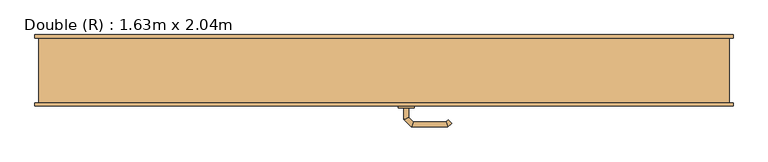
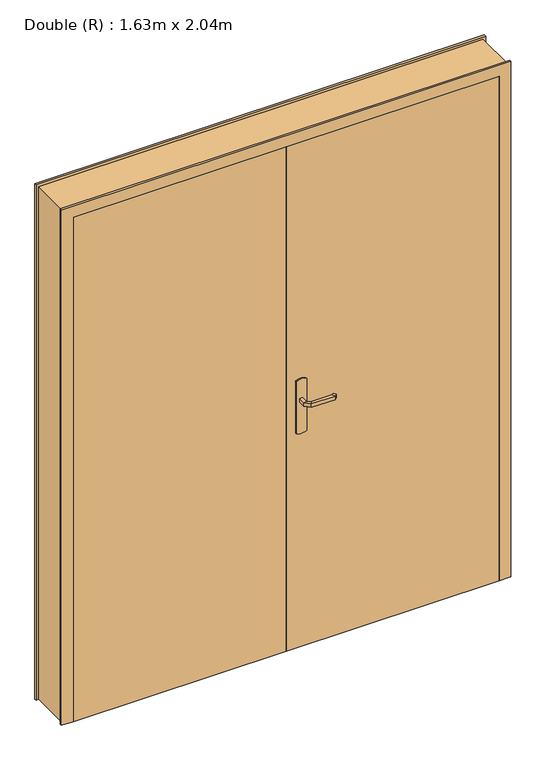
"""IFC4 building model written with IfcOpenShell, lengths in millimetres: door geometry, Double (R) : 1.63m x 2.04m."""

from ifc_helpers import new_model, si_unit, point, frame, frame_2d, origin, origin_with_axes, place, context, project, spatial, polyline, circle_curve, ellipse_curve, trimmed, segment, composite_curve, outline, extrude, faceted_brep, source, transform, mapped, element, save
from ifc_brep_helpers import plane_surface, cylinder_surface, advanced_brep


def double_r_1_63m_x_2_04m_953f21a6(model_context):
    return source(origin(), model_context, "Body", "SolidModel", [
        advanced_brep(
        [(61.0, -43.0, 993.0), (61.0, -43.0, 1007.0), (49.0, -43.0, 1007.0), (49.0, -43.0, 993.0), (61.0, -20.5147955, 993.0), (61.0, -20.5147955, 1007.0), (49.0, -15.5442327, 1007.0), (49.0, -15.5442327, 993.0), (72.4852814, -9.0295141, 993.0), (72.4852814, -9.0295141, 1007.0), (67.5147186, 2.9704859, 1007.0), (67.5147186, 2.9704859, 993.0), (152.5605023, -9.0295141, 993.0), (152.5605023, -9.0295141, 1007.0), (157.531065, 2.9704859, 1007.0), (157.531065, 2.9704859, 993.0), (157.8742108, -14.3432226, 993.0), (166.3594922, -5.8579412, 993.0), (166.3594922, -5.8579412, 1007.0), (157.8742108, -14.3432226, 1007.0)],
        [
            (0, 1),
            (1, 2, circle_curve(frame((55.0, -43.0, 986.9542278), z_axis=(0.0, -1.0, 0.0), x_axis=(-1.0, 0.0, 0.0)), 20.9244589)),
            (2, 3),
            (3, 0, circle_curve(frame((55.0, -43.0, 1013.0457722), z_axis=(0.0, -1.0, 0.0), x_axis=(-1.0, 0.0, 0.0)), 20.9244589)),
            (0, 4),
            (4, 5),
            (5, 1),
            (5, 6, ellipse_curve(frame((55.0, -18.0295141, 986.9542278), z_axis=(-0.38268343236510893, -0.9238795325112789, 0.0), x_axis=(0.9238795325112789, -0.3826834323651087, 0.0)), 22.6484711, 20.9244589)),
            (6, 2),
            (6, 7),
            (7, 3),
            (7, 4, ellipse_curve(frame((55.0, -18.0295141, 1013.0457722), z_axis=(-0.38268343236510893, -0.9238795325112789, 0.0), x_axis=(0.9238795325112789, -0.3826834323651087, 0.0)), 22.6484711, 20.9244589)),
            (4, 8),
            (8, 9),
            (9, 5),
            (9, 10, ellipse_curve(frame((70.0, -3.0295141, 986.9542278), z_axis=(-0.9238795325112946, -0.38268343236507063, 0.0), x_axis=(0.3826834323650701, -0.9238795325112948, 0.0)), 22.6484711, 20.9244589)),
            (10, 6),
            (10, 11),
            (11, 7),
            (11, 8, ellipse_curve(frame((70.0, -3.0295141, 1013.0457722), z_axis=(-0.9238795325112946, -0.38268343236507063, 0.0), x_axis=(0.3826834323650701, -0.9238795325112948, 0.0)), 22.6484711, 20.9244589)),
            (8, 12),
            (12, 13),
            (13, 9),
            (13, 14, ellipse_curve(frame((155.0457837, -3.0295141, 986.9542278), z_axis=(-0.9238795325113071, 0.38268343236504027, 0.0), x_axis=(-0.38268343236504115, -0.9238795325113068, 0.0)), 22.6484711, 20.9244589)),
            (14, 10),
            (14, 15),
            (15, 11),
            (15, 12, ellipse_curve(frame((155.0457837, -3.0295141, 1013.0457722), z_axis=(-0.9238795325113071, 0.38268343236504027, 0.0), x_axis=(-0.38268343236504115, -0.9238795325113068, 0.0)), 22.6484711, 20.9244589)),
            (16, 17, circle_curve(frame((162.1168515, -10.1005819, 1013.0457722), z_axis=(0.7071067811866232, -0.7071067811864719, 0.0), x_axis=(0.7071067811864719, 0.7071067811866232, 0.0)), 20.9244589)),
            (17, 18),
            (18, 19, circle_curve(frame((162.1168515, -10.1005819, 986.9542278), z_axis=(0.7071067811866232, -0.7071067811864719, 0.0), x_axis=(0.7071067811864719, 0.7071067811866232, 0.0)), 20.9244589)),
            (19, 16),
            (12, 16),
            (19, 13),
            (18, 14),
            (17, 15),
        ],
        [
            plane_surface(frame((45.7804555, -43.0, 1000.0), z_axis=(0.0, -1.0, 0.0), x_axis=(0.0, 0.0, 1.0))),
            plane_surface(frame((61.0, -43.0, 993.0), z_axis=(1.0, 0.0, 0.0), x_axis=(0.0, 1.0, 0.0))),
            cylinder_surface(frame((55.0, -43.0, 986.9542278), z_axis=(0.0, -1.0, 0.0), x_axis=(-1.0, 0.0, 0.0)), 20.9244589),
            plane_surface(frame((49.0, -43.0, 1007.0), z_axis=(-1.0, 0.0, 0.0), x_axis=(0.0, 1.0, 0.0))),
            cylinder_surface(frame((55.0, -43.0, 1013.0457722), z_axis=(0.0, -1.0, 0.0), x_axis=(-1.0, 0.0, 0.0)), 20.9244589),
            plane_surface(frame((61.0, -20.5147955, 993.0), z_axis=(0.707106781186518, -0.707106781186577, 0.0), x_axis=(0.707106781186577, 0.707106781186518, 0.0))),
            cylinder_surface(frame((55.0, -18.0295141, 986.9542278), z_axis=(-0.7071067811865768, -0.7071067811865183, 0.0), x_axis=(-0.7071067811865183, 0.7071067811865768, 0.0)), 20.9244589),
            plane_surface(frame((49.0, -15.5442327, 1007.0), z_axis=(-0.7071067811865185, 0.7071067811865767, 0.0), x_axis=(0.7071067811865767, 0.7071067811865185, 0.0))),
            cylinder_surface(frame((55.0, -18.0295141, 1013.0457722), z_axis=(-0.7071067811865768, -0.7071067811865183, 0.0), x_axis=(-0.7071067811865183, 0.7071067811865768, 0.0)), 20.9244589),
            plane_surface(frame((72.4852814, -9.0295141, 993.0), z_axis=(0.0, -1.0, 0.0), x_axis=(1.0, 0.0, 0.0))),
            cylinder_surface(frame((70.0, -3.0295141, 986.9542278), z_axis=(-1.0, 0.0, 0.0), x_axis=(0.0, 1.0, 0.0)), 20.9244589),
            plane_surface(frame((67.5147186, 2.9704859, 1007.0), z_axis=(0.0, 1.0, 0.0), x_axis=(1.0, 0.0, 0.0))),
            cylinder_surface(frame((70.0, -3.0295141, 1013.0457722), z_axis=(-1.0, 0.0, 0.0), x_axis=(0.0, 1.0, 0.0)), 20.9244589),
            plane_surface(frame((162.1168515, -10.1005819, 990.7804555), z_axis=(0.7071067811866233, -0.7071067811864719, 0.0), x_axis=(0.7071067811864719, 0.7071067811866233, 0.0))),
            plane_surface(frame((152.5605023, -9.0295141, 993.0), z_axis=(-0.707106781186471, -0.7071067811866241, 0.0), x_axis=(0.7071067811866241, -0.707106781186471, 0.0))),
            cylinder_surface(frame((155.0457837, -3.0295141, 986.9542278), z_axis=(-0.7071067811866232, 0.7071067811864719, 0.0), x_axis=(0.7071067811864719, 0.7071067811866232, 0.0)), 20.9244589),
            plane_surface(frame((157.531065, 2.9704859, 1007.0), z_axis=(0.7071067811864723, 0.7071067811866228, 0.0), x_axis=(0.7071067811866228, -0.7071067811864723, 0.0))),
            cylinder_surface(frame((155.0457837, -3.0295141, 1013.0457722), z_axis=(-0.7071067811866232, 0.7071067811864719, 0.0), x_axis=(0.7071067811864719, 0.7071067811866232, 0.0)), 20.9244589),
        ],
        [
            (0, [[1, 2, 3, 4]]),
            (1, [[-1, 5, 6, 7]]),
            (2, [[-2, -7, 8, 9]]),
            (3, [[-3, -9, 10, 11]]),
            (4, [[-4, -11, 12, -5]]),
            (5, [[-6, 13, 14, 15]]),
            (6, [[-8, -15, 16, 17]]),
            (7, [[-10, -17, 18, 19]]),
            (8, [[-12, -19, 20, -13]]),
            (9, [[-14, 21, 22, 23]]),
            (10, [[-16, -23, 24, 25]]),
            (11, [[-18, -25, 26, 27]]),
            (12, [[-20, -27, 28, -21]]),
            (13, [[29, 30, 31, 32]]),
            (14, [[-22, 33, -32, 34]]),
            (15, [[-24, -34, -31, 35]]),
            (16, [[-26, -35, -30, 36]]),
            (17, [[-28, -36, -29, -33]]),
        ],
    ),
        advanced_brep(
        [(49.0, -93.0, 1007.0), (61.0, -93.0, 1007.0), (61.0, -93.0, 993.0), (49.0, -93.0, 993.0), (49.0, -120.6509507, 1007.0), (61.0, -115.680388, 1007.0), (61.0, -115.680388, 993.0), (49.0, -120.6509507, 993.0), (67.37721, -139.0281607, 1007.0), (72.3477727, -127.0281607, 1007.0), (72.3477727, -127.0281607, 993.0), (67.37721, -139.0281607, 993.0), (157.503922, -139.0281607, 1007.0), (152.5333592, -127.0281607, 1007.0), (152.5333592, -127.0281607, 993.0), (157.503922, -139.0281607, 993.0), (166.3323491, -130.1997336, 1007.0), (166.3323491, -130.1997336, 993.0), (157.8470677, -121.7144522, 993.0), (157.8470677, -121.7144522, 1007.0)],
        [
            (0, 1, circle_curve(frame((55.0, -93.0, 986.9542278), z_axis=(0.0, 1.0, 0.0), x_axis=(1.0, 0.0, 0.0)), 20.9244589)),
            (1, 2),
            (2, 3, circle_curve(frame((55.0, -93.0, 1013.0457722), z_axis=(0.0, 1.0, 0.0), x_axis=(1.0, 0.0, 0.0)), 20.9244589)),
            (3, 0),
            (0, 4),
            (4, 5, ellipse_curve(frame((55.0, -118.1656693, 986.9542278), z_axis=(-0.3826834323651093, 0.9238795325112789, 0.0), x_axis=(0.9238795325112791, 0.38268343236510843, 0.0)), 22.6484711, 20.9244589)),
            (5, 1),
            (5, 6),
            (6, 2),
            (6, 7, ellipse_curve(frame((55.0, -118.1656693, 1013.0457722), z_axis=(-0.3826834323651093, 0.9238795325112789, 0.0), x_axis=(0.9238795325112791, 0.38268343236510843, 0.0)), 22.6484711, 20.9244589)),
            (7, 3),
            (7, 4),
            (4, 8),
            (8, 9, ellipse_curve(frame((69.8624914, -133.0281607, 986.9542278), z_axis=(-0.9238795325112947, 0.38268343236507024, 0.0), x_axis=(0.3826834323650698, 0.9238795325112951, 0.0)), 22.6484711, 20.9244589)),
            (9, 5),
            (9, 10),
            (10, 6),
            (10, 11, ellipse_curve(frame((69.8624914, -133.0281607, 1013.0457722), z_axis=(-0.9238795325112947, 0.38268343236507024, 0.0), x_axis=(0.3826834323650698, 0.9238795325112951, 0.0)), 22.6484711, 20.9244589)),
            (11, 7),
            (11, 8),
            (8, 12),
            (12, 13, ellipse_curve(frame((155.0186406, -133.0281607, 986.9542278), z_axis=(-0.9238795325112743, -0.3826834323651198, 0.0), x_axis=(-0.38268343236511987, 0.9238795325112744, 0.0)), 22.6484711, 20.9244589)),
            (13, 9),
            (13, 14),
            (14, 10),
            (14, 15, ellipse_curve(frame((155.0186406, -133.0281607, 1013.0457722), z_axis=(-0.9238795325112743, -0.3826834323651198, 0.0), x_axis=(-0.38268343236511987, 0.9238795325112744, 0.0)), 22.6484711, 20.9244589)),
            (15, 11),
            (15, 12),
            (16, 17),
            (17, 18, circle_curve(frame((162.0897084, -125.9570929, 1013.0457722), z_axis=(0.7071067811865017, 0.7071067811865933, 0.0), x_axis=(-0.7071067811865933, 0.7071067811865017, 0.0)), 20.9244589)),
            (18, 19),
            (19, 16, circle_curve(frame((162.0897084, -125.9570929, 986.9542278), z_axis=(0.7071067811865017, 0.7071067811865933, 0.0), x_axis=(-0.7071067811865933, 0.7071067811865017, 0.0)), 20.9244589)),
            (12, 16),
            (19, 13),
            (18, 14),
            (17, 15),
        ],
        [
            plane_surface(frame((45.7804555, -93.0, 1000.0), z_axis=(0.0, 1.0, 0.0), x_axis=(0.0, 0.0, -1.0))),
            cylinder_surface(frame((55.0, -93.0, 986.9542278), z_axis=(0.0, 1.0, 0.0), x_axis=(1.0, 0.0, 0.0)), 20.9244589),
            plane_surface(frame((61.0, -93.0, 1007.0), z_axis=(1.0, 0.0, 0.0), x_axis=(0.0, -1.0, 0.0))),
            cylinder_surface(frame((55.0, -93.0, 1013.0457722), z_axis=(0.0, 1.0, 0.0), x_axis=(1.0, 0.0, 0.0)), 20.9244589),
            plane_surface(frame((49.0, -93.0, 993.0), z_axis=(-1.0, 0.0, 0.0), x_axis=(0.0, -1.0, 0.0))),
            cylinder_surface(frame((55.0, -118.1656693, 986.9542278), z_axis=(-0.7071067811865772, 0.7071067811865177, 0.0), x_axis=(0.7071067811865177, 0.7071067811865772, 0.0)), 20.9244589),
            plane_surface(frame((61.0, -115.680388, 1007.0), z_axis=(0.7071067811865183, 0.7071067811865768, 0.0), x_axis=(0.7071067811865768, -0.7071067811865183, 0.0))),
            cylinder_surface(frame((55.0, -118.1656693, 1013.0457722), z_axis=(-0.7071067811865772, 0.7071067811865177, 0.0), x_axis=(0.7071067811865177, 0.7071067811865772, 0.0)), 20.9244589),
            plane_surface(frame((49.0, -120.6509507, 993.0), z_axis=(-0.707106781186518, -0.707106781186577, 0.0), x_axis=(0.707106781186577, -0.707106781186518, 0.0))),
            cylinder_surface(frame((69.8624914, -133.0281607, 986.9542278), z_axis=(-1.0, 0.0, 0.0), x_axis=(0.0, 1.0, 0.0)), 20.9244589),
            plane_surface(frame((72.3477727, -127.0281607, 1007.0), z_axis=(0.0, 1.0, 0.0), x_axis=(1.0, 0.0, 0.0))),
            cylinder_surface(frame((69.8624914, -133.0281607, 1013.0457722), z_axis=(-1.0, 0.0, 0.0), x_axis=(0.0, 1.0, 0.0)), 20.9244589),
            plane_surface(frame((67.37721, -139.0281607, 993.0), z_axis=(0.0, -1.0, 0.0), x_axis=(1.0, 0.0, 0.0))),
            plane_surface(frame((162.0897084, -125.9570929, 1009.2195445), z_axis=(0.7071067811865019, 0.7071067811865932, 0.0), x_axis=(0.7071067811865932, -0.7071067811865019, 0.0))),
            cylinder_surface(frame((155.0186406, -133.0281607, 986.9542278), z_axis=(-0.7071067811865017, -0.7071067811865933, 0.0), x_axis=(-0.7071067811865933, 0.7071067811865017, 0.0)), 20.9244589),
            plane_surface(frame((152.5333592, -127.0281607, 1007.0), z_axis=(-0.7071067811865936, 0.7071067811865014, 0.0), x_axis=(0.7071067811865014, 0.7071067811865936, 0.0))),
            cylinder_surface(frame((155.0186406, -133.0281607, 1013.0457722), z_axis=(-0.7071067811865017, -0.7071067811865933, 0.0), x_axis=(-0.7071067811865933, 0.7071067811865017, 0.0)), 20.9244589),
            plane_surface(frame((157.503922, -139.0281607, 993.0), z_axis=(0.707106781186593, -0.7071067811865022, 0.0), x_axis=(0.7071067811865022, 0.707106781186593, 0.0))),
        ],
        [
            (0, [[1, 2, 3, 4]]),
            (1, [[-1, 5, 6, 7]]),
            (2, [[-2, -7, 8, 9]]),
            (3, [[-3, -9, 10, 11]]),
            (4, [[-4, -11, 12, -5]]),
            (5, [[-6, 13, 14, 15]]),
            (6, [[-8, -15, 16, 17]]),
            (7, [[-10, -17, 18, 19]]),
            (8, [[-12, -19, 20, -13]]),
            (9, [[-14, 21, 22, 23]]),
            (10, [[-16, -23, 24, 25]]),
            (11, [[-18, -25, 26, 27]]),
            (12, [[-20, -27, 28, -21]]),
            (13, [[29, 30, 31, 32]]),
            (14, [[-22, 33, -32, 34]]),
            (15, [[-24, -34, -31, 35]]),
            (16, [[-26, -35, -30, 36]]),
            (17, [[-28, -36, -29, -33]]),
        ],
    ),
        extrude(outline(composite_curve([segment(trimmed(circle_curve(frame_2d((1045.3589838, 55.0)), 40.0), [point((1080.0, 75.0))], [point((1080.0, 35.0))], False, "CARTESIAN"), True, "CONTINUOUS"), segment(polyline([(1080.0, 35.0), (870.0, 35.0)]), True, "CONTINUOUS"), segment(trimmed(circle_curve(frame_2d((904.6410162, 55.0)), 40.0), [point((870.0, 35.0))], [point((870.0, 75.0))], False, "CARTESIAN"), True, "CONTINUOUS"), segment(polyline([(870.0, 75.0), (1080.0, 75.0)]), True, "CONTINUOUS")], self_intersect=False)), frame((0.0, -48.0, 0.0), z_axis=(0.0, 1.0, 0.0), x_axis=(0.0, 0.0, 1.0)), (0.0, 0.0, 1.0), 5.0),
        extrude(outline(composite_curve([segment(trimmed(circle_curve(frame_2d((904.6410162, 55.0)), 40.0), [point((870.0, 35.0))], [point((870.0, 75.0))], False, "CARTESIAN"), True, "CONTINUOUS"), segment(polyline([(870.0, 75.0), (1080.0, 75.0)]), True, "CONTINUOUS"), segment(trimmed(circle_curve(frame_2d((1045.3589838, 55.0)), 40.0), [point((1080.0, 75.0))], [point((1080.0, 35.0))], False, "CARTESIAN"), True, "CONTINUOUS"), segment(polyline([(1080.0, 35.0), (870.0, 35.0)]), True, "CONTINUOUS")], self_intersect=False)), frame((0.0, -93.0, 0.0), z_axis=(0.0, 1.0, 0.0), x_axis=(0.0, 0.0, 1.0)), (0.0, 0.0, 1.0), 5.0),
        faceted_brep([(-850.0, -80.0, 0.0), (-850.0, 80.0, 0.0), (-860.0, 80.0, 0.0), (-860.0, 88.0, 0.0), (-800.0, 88.0, 0.0), (-800.0, -48.0, 0.0), (-815.0, -48.0, 0.0), (-815.0, -88.0, 0.0), (-860.0, -88.0, 0.0), (-860.0, -80.0, 0.0), (-850.0, -80.0, 2075.0), (-850.0, 80.0, 2075.0), (850.0, 80.0, 2075.0), (850.0, 80.0, 0.0), (860.0, 80.0, 0.0), (860.0, 80.0, 2085.0), (-860.0, 80.0, 2085.0), (-860.0, 88.0, 2085.0), (860.0, 88.0, 2085.0), (860.0, 88.0, 0.0), (800.0, 88.0, 0.0), (800.0, 88.0, 2025.0), (-800.0, 88.0, 2025.0), (-800.0, -48.0, 2025.0), (800.0, -48.0, 2025.0), (800.0, -48.0, 0.0), (815.0, -48.0, 0.0), (815.0, -48.0, 2040.0), (-815.0, -48.0, 2040.0), (-815.0, -88.0, 2040.0), (815.0, -88.0, 2040.0), (815.0, -88.0, 0.0), (860.0, -88.0, 0.0), (860.0, -88.0, 2085.0), (-860.0, -88.0, 2085.0), (-860.0, -80.0, 2085.0), (860.0, -80.0, 2085.0), (860.0, -80.0, 0.0), (850.0, -80.0, 0.0), (850.0, -80.0, 2075.0)], [[[0, 1, 2, 3, 4, 5, 6, 7, 8, 9]], [[1, 0, 10, 11]], [[2, 1, 11, 12, 13, 14, 15, 16]], [[3, 2, 16, 17]], [[4, 3, 17, 18, 19, 20, 21, 22]], [[5, 4, 22, 23]], [[6, 5, 23, 24, 25, 26, 27, 28]], [[7, 6, 28, 29]], [[8, 7, 29, 30, 31, 32, 33, 34]], [[9, 8, 34, 35]], [[0, 9, 35, 36, 37, 38, 39, 10]], [[12, 39, 38, 13]], [[38, 37, 32, 31, 26, 25, 20, 19, 14, 13]], [[18, 15, 14, 19]], [[24, 21, 20, 25]], [[30, 27, 26, 31]], [[36, 33, 32, 37]], [[11, 10, 39, 12]], [[17, 16, 15, 18]], [[23, 22, 21, 24]], [[29, 28, 27, 30]], [[35, 34, 33, 36]]]),
        extrude(outline(polyline([(815.0, -88.0), (0.0, -88.0), (0.0, -48.0), (815.0, -48.0), (815.0, -88.0)])), origin_with_axes(), (0.0, 0.0, 1.0), 2040.0),
        extrude(outline(polyline([(0.0, -88.0), (-815.0, -88.0), (-815.0, -48.0), (0.0, -48.0), (0.0, -88.0)])), origin_with_axes(), (0.0, 0.0, 1.0), 2040.0),
    ])


if __name__ == "__main__":
    model = new_model("IFC4")
    model_context = context("Model", 3, world=origin())
    ifc_project = project(units=[si_unit("LENGTHUNIT", "METRE", prefix="MILLI")], contexts=[model_context])
    site = spatial("IfcSite", under=ifc_project)
    building = spatial("IfcBuilding", under=site)
    placement = place(None, origin())
    double_r_1_63m_x_2_04m_shape = double_r_1_63m_x_2_04m_953f21a6(model_context)
    element("IfcDoor", 1, ObjectType="Double (R) : 1.63m x 2.04m", at=placement, inside=building, context=model_context, shape_type="MappedRepresentation", body=[
        mapped(double_r_1_63m_x_2_04m_shape, transform((0.0, 0.0, 0.0), x_axis=(1.0, 0.0, 0.0), y_axis=(0.0, 1.0, 0.0), z_axis=(0.0, 0.0, 1.0))),
    ])
    save(model, "model.ifc")
